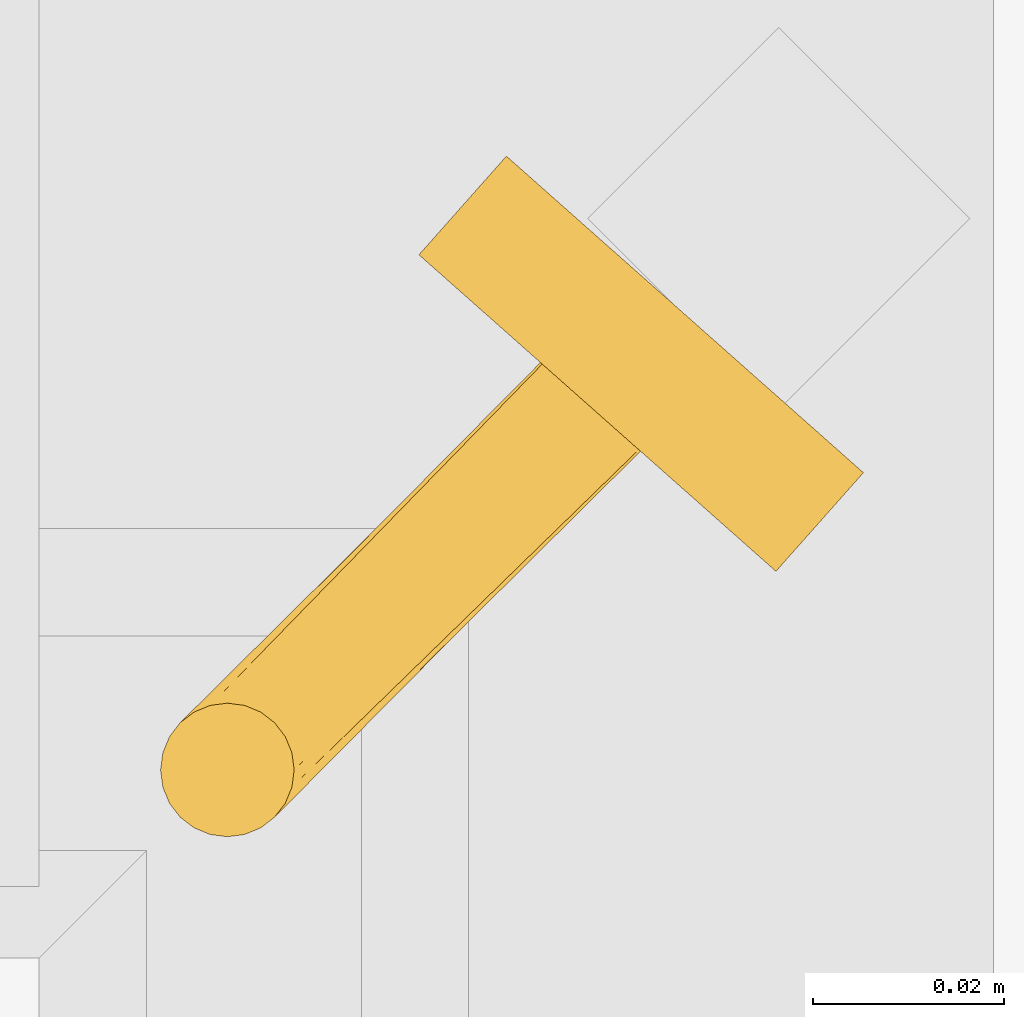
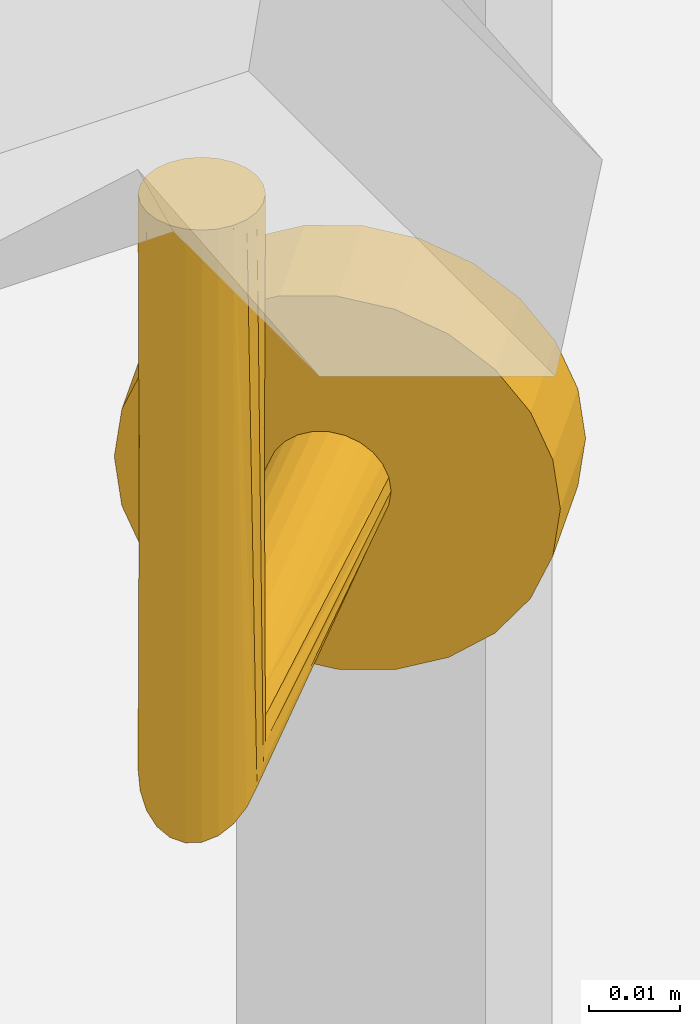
# One storey, part 58 of 75: 1 railing.
"""IFC2X3 building model written with IfcOpenShell, lengths in metres."""

from ifc_helpers import new_model, entity, si_unit, converted_unit, derived_unit, direction, frame, origin, place, context, subcontext, project, spatial, faceted_brep, source, transform, mapped, material, type_object, type_shapes, element, save


model = new_model("IFC2X3")

# Units and contexts
model_context = context("Model", 3, precision=1e-05, world=origin(), true_north=direction((6.12303176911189e-17, 1.0)))
body_context = subcontext(model_context, "Body", "Model", "MODEL_VIEW")
ifc_project = project(units=[si_unit("LENGTHUNIT", "METRE"), si_unit("AREAUNIT", "SQUARE_METRE"), si_unit("VOLUMEUNIT", "CUBIC_METRE"), converted_unit("PLANEANGLEUNIT", "DEGREE", entity("IfcRatioMeasure", 0.0174532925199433), si_unit("PLANEANGLEUNIT", "RADIAN"), dimensions=[0, 0, 0, 0, 0, 0, 0]), si_unit("MASSUNIT", "GRAM", prefix="KILO"), derived_unit("MASSDENSITYUNIT", [(si_unit("MASSUNIT", "GRAM", prefix="KILO"), 1), (si_unit("LENGTHUNIT", "METRE"), -3)]), derived_unit("MOMENTOFINERTIAUNIT", [(si_unit("LENGTHUNIT", "METRE"), 4)]), si_unit("TIMEUNIT", "SECOND"), si_unit("FREQUENCYUNIT", "HERTZ"), si_unit("THERMODYNAMICTEMPERATUREUNIT", "DEGREE_CELSIUS"), derived_unit("THERMALTRANSMITTANCEUNIT", [(si_unit("MASSUNIT", "GRAM", prefix="KILO"), 1), (si_unit("THERMODYNAMICTEMPERATUREUNIT", "KELVIN"), -1), (si_unit("TIMEUNIT", "SECOND"), -3)]), derived_unit("VOLUMETRICFLOWRATEUNIT", [(si_unit("LENGTHUNIT", "METRE"), 3), (si_unit("TIMEUNIT", "SECOND"), -1)]), si_unit("ELECTRICCURRENTUNIT", "AMPERE"), si_unit("ELECTRICVOLTAGEUNIT", "VOLT"), si_unit("POWERUNIT", "WATT"), si_unit("FORCEUNIT", "NEWTON", prefix="KILO"), si_unit("ILLUMINANCEUNIT", "LUX"), si_unit("LUMINOUSFLUXUNIT", "LUMEN"), si_unit("LUMINOUSINTENSITYUNIT", "CANDELA"), derived_unit("USERDEFINED", [(si_unit("MASSUNIT", "GRAM", prefix="KILO"), -1), (si_unit("LENGTHUNIT", "METRE"), -2), (si_unit("TIMEUNIT", "SECOND"), 3), (si_unit("LUMINOUSFLUXUNIT", "LUMEN"), 1)]), derived_unit("LINEARVELOCITYUNIT", [(si_unit("LENGTHUNIT", "METRE"), 1), (si_unit("TIMEUNIT", "SECOND"), -1)]), si_unit("PRESSUREUNIT", "PASCAL"), derived_unit("USERDEFINED", [(si_unit("LENGTHUNIT", "METRE"), -2), (si_unit("MASSUNIT", "GRAM", prefix="KILO"), 1), (si_unit("TIMEUNIT", "SECOND"), -2)]), derived_unit("LINEARFORCEUNIT", [(si_unit("MASSUNIT", "GRAM", prefix="KILO"), 1), (si_unit("LENGTHUNIT", "METRE"), 1), (si_unit("TIMEUNIT", "SECOND"), -2), (si_unit("LENGTHUNIT", "METRE"), -1)]), derived_unit("PLANARFORCEUNIT", [(si_unit("MASSUNIT", "GRAM", prefix="KILO"), 1), (si_unit("LENGTHUNIT", "METRE"), 1), (si_unit("TIMEUNIT", "SECOND"), -2), (si_unit("LENGTHUNIT", "METRE"), -2)])], contexts=[model_context])

# Site, building, storey
site_placement = place(None, origin())
site = spatial("IfcSite", under=ifc_project, at=site_placement, Name="Superficie", CompositionType="ELEMENT")
building_placement = place(site_placement, origin())
building = spatial("IfcBuilding", under=site, at=building_placement, Name="Telegestiones", CompositionType="ELEMENT")
storey_placement = place(building_placement, origin())
storey = spatial("IfcBuildingStorey", under=building, at=storey_placement, Name="Nivel 0_NPT", CompositionType="ELEMENT", Elevation=0.0)

# Railing
ifc_material = material(Name="Metal - Aluminio")
railing_type = type_object("IfcRailingType", Name="Soportes 1:Soportes 1", PredefinedType="NOTDEFINED", material=ifc_material)
shared_shape = source(origin(), body_context, "Body", "Brep", [
    faceted_brep([(0.0509861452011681, 0.0439861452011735, 0.0312610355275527), (0.0517727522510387, 0.0431995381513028, 0.0298112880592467), (0.0522672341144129, 0.0427050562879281, 0.0281230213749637), (0.0524358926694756, 0.0425363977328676, 0.0263112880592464), (0.0522672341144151, 0.0427050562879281, 0.0244995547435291), (0.0517727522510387, 0.0431995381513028, 0.0228112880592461), (0.0509861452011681, 0.0439861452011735, 0.0213615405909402), (0.0499610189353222, 0.0450112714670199, 0.0202491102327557), (0.0487672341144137, 0.0462050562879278, 0.0195498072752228), (0.0474861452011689, 0.0474861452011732, 0.0193112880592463), (0.046205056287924, 0.0487672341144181, 0.0195498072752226), (0.0450112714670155, 0.0499610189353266, 0.0202491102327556), (0.0439861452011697, 0.0509861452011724, 0.0213615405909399), (0.0431995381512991, 0.051772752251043, 0.0228112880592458), (0.0427050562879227, 0.0522672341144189, 0.0244995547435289), (0.0425363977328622, 0.0524358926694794, 0.0263112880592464), (0.0427050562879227, 0.0522672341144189, 0.0281230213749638), (0.0431995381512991, 0.051772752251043, 0.0298112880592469), (0.0439861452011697, 0.0509861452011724, 0.0312610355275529), (0.0450112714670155, 0.049961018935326, 0.0323734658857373), (0.046205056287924, 0.0487672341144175, 0.0330727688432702), (0.0474861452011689, 0.0474861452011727, 0.0333112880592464), (0.0487672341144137, 0.0462050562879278, 0.0330727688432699), (0.0499610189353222, 0.0450112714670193, 0.032373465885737), (0.00364552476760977, 0.00364552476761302, 0.0193112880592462), (0.00253309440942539, 0.00509527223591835, 0.0195498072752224), (0.0018337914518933, 0.00678353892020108, 0.0202491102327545), (0.0015952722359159, 0.00859527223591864, 0.0213615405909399), (0.00183379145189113, 0.0104070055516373, 0.0228112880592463), (0.00253309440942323, 0.0120952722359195, 0.0244995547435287), (0.00364552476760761, 0.0135450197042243, 0.0263112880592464), (0.0050952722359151, 0.0146574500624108, 0.0281230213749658), (0.00678353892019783, 0.0153567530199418, 0.0298112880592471), (0.00859527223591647, 0.0155952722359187, 0.0312610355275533), (0.0120952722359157, 0.0146574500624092, 0.0330727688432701), (0.013545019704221, 0.0135450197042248, 0.0333112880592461), (0.0104070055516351, 0.0153567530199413, 0.0323734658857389), (0.0153567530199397, 0.0104070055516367, 0.0323734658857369), (0.0155952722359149, 0.00859527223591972, 0.0312610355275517), (0.0146574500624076, 0.0120952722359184, 0.0330727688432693), (0.0153567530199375, 0.00678353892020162, 0.0298112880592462), (0.0146574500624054, 0.00509527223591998, 0.0281230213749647), (0.013545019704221, 0.00364552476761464, 0.0263112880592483), (0.0104070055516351, 0.00183379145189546, 0.0228112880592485), (0.0120952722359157, 0.00253309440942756, 0.0244995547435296), (0.00859527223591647, 0.00159527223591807, 0.0213615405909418), (0.00678353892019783, 0.00183379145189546, 0.0202491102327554), (0.00509527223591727, 0.00253309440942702, 0.0195498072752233), (0.0153567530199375, 0.00678353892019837, 0.101595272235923), (0.0155952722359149, 0.00859527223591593, 0.101595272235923), (0.0153567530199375, 0.0104070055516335, 0.101595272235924), (0.0146574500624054, 0.0120952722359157, 0.101595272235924), (0.013545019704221, 0.013545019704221, 0.101595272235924), (0.0120952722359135, 0.0146574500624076, 0.101595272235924), (0.010407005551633, 0.0153567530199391, 0.101595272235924), (0.00859527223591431, 0.015595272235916, 0.101595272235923), (0.00678353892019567, 0.0153567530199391, 0.101595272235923), (0.0050952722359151, 0.0146574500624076, 0.101595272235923), (0.00364552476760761, 0.013545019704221, 0.101595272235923), (0.00253309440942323, 0.0120952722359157, 0.101595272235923), (0.00183379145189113, 0.0104070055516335, 0.101595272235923), (0.00159527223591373, 0.00859527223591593, 0.101595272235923), (0.00183379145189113, 0.00678353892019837, 0.101595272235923), (0.00253309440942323, 0.00509527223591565, 0.101595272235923), (0.00364552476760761, 0.00364552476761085, 0.101595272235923), (0.0050952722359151, 0.00253309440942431, 0.101595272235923), (0.00678353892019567, 0.00183379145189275, 0.101595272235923), (0.00859527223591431, 0.0015952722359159, 0.101595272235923), (0.010407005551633, 0.00183379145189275, 0.101595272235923), (0.0120952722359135, 0.00253309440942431, 0.101595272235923), (0.013545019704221, 0.00364552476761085, 0.101595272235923), (0.0146574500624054, 0.00509527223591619, 0.101595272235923)], [[[0, 1, 2, 3, 4, 5, 6, 7, 8, 9, 10, 11, 12, 13, 14, 15, 16, 17, 18, 19, 20, 21, 22, 23]], [[9, 24, 25, 10]], [[26, 10, 25]], [[11, 27, 28]], [[26, 27, 10]], [[12, 28, 29]], [[27, 11, 10]], [[14, 30, 31]], [[30, 14, 13]], [[12, 29, 13]], [[12, 11, 28]], [[29, 30, 13]], [[32, 33, 16]], [[31, 32, 15]], [[34, 35, 21, 20]], [[36, 34, 20, 19]], [[33, 36, 19, 18]], [[33, 17, 16]], [[16, 15, 32]], [[18, 17, 33]], [[31, 15, 14]], [[37, 38, 0, 23]], [[39, 37, 23, 22]], [[3, 40, 41]], [[2, 40, 3]], [[38, 40, 2]], [[35, 39, 22, 21]], [[1, 0, 38]], [[38, 2, 1]], [[41, 42, 4]], [[43, 6, 44]], [[45, 7, 43]], [[8, 46, 47]], [[45, 46, 8]], [[9, 8, 47, 24]], [[5, 4, 42]], [[3, 41, 4]], [[8, 7, 45]], [[6, 43, 7]], [[6, 5, 44]], [[42, 44, 5]], [[48, 49, 50, 51, 52, 53, 54, 55, 56, 57, 58, 59, 60, 61, 62, 63, 64, 65, 66, 67, 68, 69, 70, 71]], [[63, 25, 24, 64]], [[62, 26, 25, 63]], [[29, 61, 60]], [[62, 61, 27, 26]], [[30, 29, 60]], [[31, 59, 58]], [[29, 28, 61]], [[27, 61, 28]], [[60, 59, 30]], [[32, 57, 56]], [[55, 33, 32, 56]], [[53, 52, 35, 34]], [[36, 33, 55, 54]], [[34, 36, 54, 53]], [[30, 59, 31]], [[31, 58, 32]], [[58, 57, 32]], [[35, 52, 51, 39]], [[50, 37, 39, 51]], [[48, 71, 40]], [[37, 50, 49, 38]], [[38, 49, 48, 40]], [[41, 40, 70]], [[70, 69, 41]], [[71, 70, 40]], [[68, 67, 44]], [[69, 68, 42]], [[65, 64, 24, 47]], [[66, 65, 47, 46]], [[67, 66, 46, 45]], [[67, 43, 44]], [[44, 42, 68]], [[43, 67, 45]], [[69, 42, 41]]]),
    faceted_brep([(0.0473739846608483, 0.0459931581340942, 0.051595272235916), (0.0425325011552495, 0.0502858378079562, 0.0507434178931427), (0.0380209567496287, 0.0542859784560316, 0.0482459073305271), (0.0341468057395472, 0.0577209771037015, 0.0442729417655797), (0.0311740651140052, 0.0603567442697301, 0.039095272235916), (0.0293053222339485, 0.062013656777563, 0.0330657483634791), (0.0286679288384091, 0.0625787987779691, 0.0265952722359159), (0.0293053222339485, 0.062013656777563, 0.0201247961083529), (0.0311740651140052, 0.0603567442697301, 0.0140952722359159), (0.0341468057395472, 0.0577209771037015, 0.00891760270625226), (0.0380209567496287, 0.0542859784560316, 0.00494463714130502), (0.0425325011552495, 0.0502858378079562, 0.00244712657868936), (0.0473739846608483, 0.0459931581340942, 0.00159527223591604), (0.052215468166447, 0.0417004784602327, 0.00244712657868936), (0.0567270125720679, 0.0377003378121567, 0.00494463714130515), (0.0606011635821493, 0.0342653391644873, 0.00891760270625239), (0.0635739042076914, 0.0316295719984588, 0.0140952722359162), (0.0654426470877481, 0.0299726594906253, 0.0201247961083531), (0.0660800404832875, 0.0294075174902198, 0.0265952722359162), (0.0654426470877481, 0.0299726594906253, 0.0330657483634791), (0.0635739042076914, 0.0316295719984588, 0.039095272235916), (0.0606011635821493, 0.0342653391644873, 0.0442729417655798), (0.0567270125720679, 0.0377003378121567, 0.0482459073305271), (0.052215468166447, 0.0417004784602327, 0.0507434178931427), (0.0471869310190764, 0.0646237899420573, 0.00494463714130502), (0.043312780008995, 0.0680587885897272, 0.00891760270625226), (0.0403400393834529, 0.0706945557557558, 0.0140952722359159), (0.0384712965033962, 0.0723514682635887, 0.0201247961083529), (0.0378339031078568, 0.0729166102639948, 0.026595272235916), (0.0384712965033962, 0.0723514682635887, 0.0330657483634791), (0.0403400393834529, 0.0706945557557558, 0.039095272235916), (0.043312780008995, 0.0680587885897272, 0.0442729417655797), (0.0471869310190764, 0.0646237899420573, 0.0482459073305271), (0.0516984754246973, 0.0606236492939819, 0.0507434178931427), (0.056539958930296, 0.0563309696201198, 0.051595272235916), (0.0613814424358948, 0.0520382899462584, 0.0507434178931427), (0.0658929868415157, 0.0480381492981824, 0.0482459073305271), (0.0697671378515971, 0.044603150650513, 0.0442729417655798), (0.0727398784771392, 0.0419673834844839, 0.039095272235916), (0.0746086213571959, 0.040310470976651, 0.0330657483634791), (0.0752460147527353, 0.0397453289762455, 0.0265952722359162), (0.0746086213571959, 0.040310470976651, 0.0201247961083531), (0.0727398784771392, 0.0419673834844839, 0.0140952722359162), (0.0697671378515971, 0.044603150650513, 0.00891760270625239), (0.0658929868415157, 0.0480381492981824, 0.00494463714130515), (0.0613814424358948, 0.0520382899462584, 0.00244712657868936), (0.056539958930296, 0.0563309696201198, 0.00159527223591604), (0.0516984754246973, 0.0606236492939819, 0.00244712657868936)], [[[0, 1, 2, 3, 4, 5, 6, 7, 8, 9, 10, 11, 12, 13, 14, 15, 16, 17, 18, 19, 20, 21, 22, 23]], [[24, 25, 26, 27, 28, 29, 30, 31, 32, 33, 34, 35, 36, 37, 38, 39, 40, 41, 42, 43, 44, 45, 46, 47]], [[17, 41, 40, 18]], [[16, 42, 41, 17]], [[44, 43, 15, 14]], [[16, 15, 43, 42]], [[45, 44, 14, 13]], [[46, 45, 13, 12]], [[11, 47, 46, 12]], [[10, 24, 47, 11]], [[26, 25, 9, 8]], [[10, 9, 25, 24]], [[27, 26, 8, 7]], [[28, 27, 7, 6]], [[5, 29, 28, 6]], [[4, 30, 29, 5]], [[32, 31, 3, 2]], [[4, 3, 31, 30]], [[33, 32, 2, 1]], [[34, 33, 1, 0]], [[23, 35, 34, 0]], [[22, 36, 35, 23]], [[38, 37, 21, 20]], [[22, 21, 37, 36]], [[39, 38, 20, 19]], [[40, 39, 19, 18]]]),
])
type_shapes(railing_type, [shared_shape])
railing_placement = place(storey_placement, frame((17.1479140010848, 3.93975259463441, 0.753404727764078)))
element("IfcRailing", 1, at=railing_placement, inside=storey, type_object=railing_type, material=ifc_material, Name="Soportes 1:Soportes 1", ObjectType="Soportes 1:Soportes 1", PredefinedType="NOTDEFINED", context=body_context, shape_type="MappedRepresentation", body=[
    mapped(shared_shape, transform((0.0, 0.0, 0.0), scale=1.0)),
])

save(model, "model.ifc")
